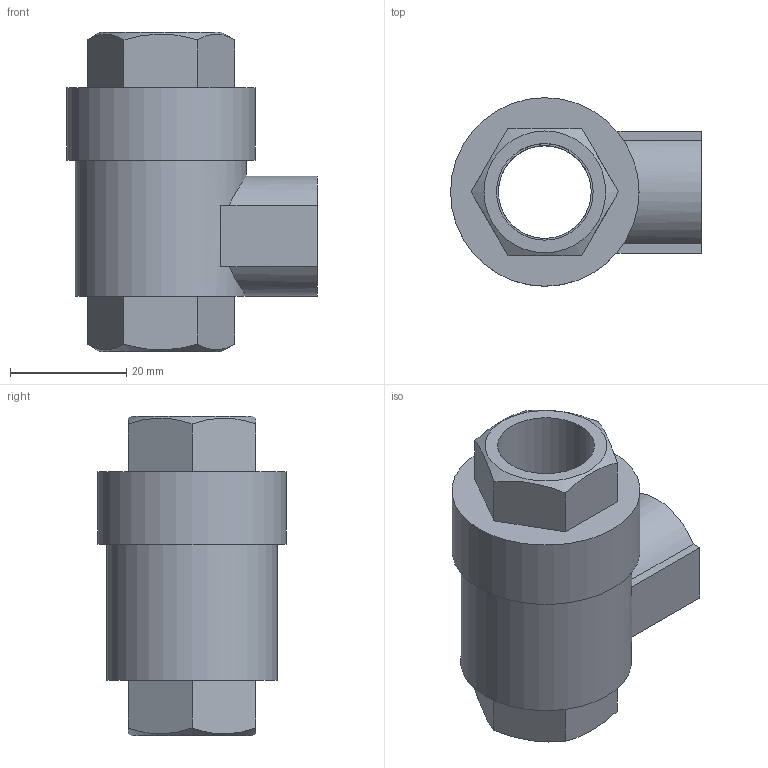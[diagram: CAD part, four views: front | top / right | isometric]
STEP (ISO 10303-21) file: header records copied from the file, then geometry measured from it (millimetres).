
FILE_DESCRIPTION(('Bauteilbeschreibung','HiCAD-Model','HiCAD-STEP-TRANSLATION','Bauteilbeschreibung'),'2;1');
FILE_NAME('B:/ABGLEICH/ZEICHNUNGEN/STEP FÜR INTERNET/STEP/SCHNELLENTLÜFTUNGSVENTIL VSR/60504_VSR_3-8_Q.STP','2012-08-30T11:54:10+00:00',('Konstrukteur'),('Konstrukteur Firma GmbH'),' HiCAD neXt 2008, Step 3.1.1401.2J ','HiCAD neXt 2008','confidential');
FILE_SCHEMA(('AUTOMOTIVE_DESIGN { 1 2 10303 214 0 1 1 1 }'));
Length unit declared in the file: millimetre
Products named in the file (2): A0504_VSR_3_8_Q; ROTATIONSTEIL_0
Assembly tree (1 placements, depth 2):
  A0504_VSR_3_8_Q
    ROTATIONSTEIL_0
Bounding box: 43.25 x 32.5 x 55 mm (x, y, z)
Volume: 23271.7 mm3; surface area: 10564.3 mm2
Topology: 1 solids, 1 shells, 39 faces, 100 edges, 67 vertices
Faces by surface type: plane 27, cylinder 10, cone 2
Full cylindrical faces by diameter (mm): 16 x2, 16.662 x3, 29.5 x1, 32.5 x1
Entity records: 1959 total; most frequent: CARTESIAN_POINT 684, DIRECTION 170, ORIENTED_EDGE 162, EDGE_CURVE 81, COLOUR_RGB 79, PRESENTATION_STYLE_ASSIGNMENT 79, CURVE_STYLE 78, DRAUGHTING_PRE_DEFINED_CURVE_FONT 78
